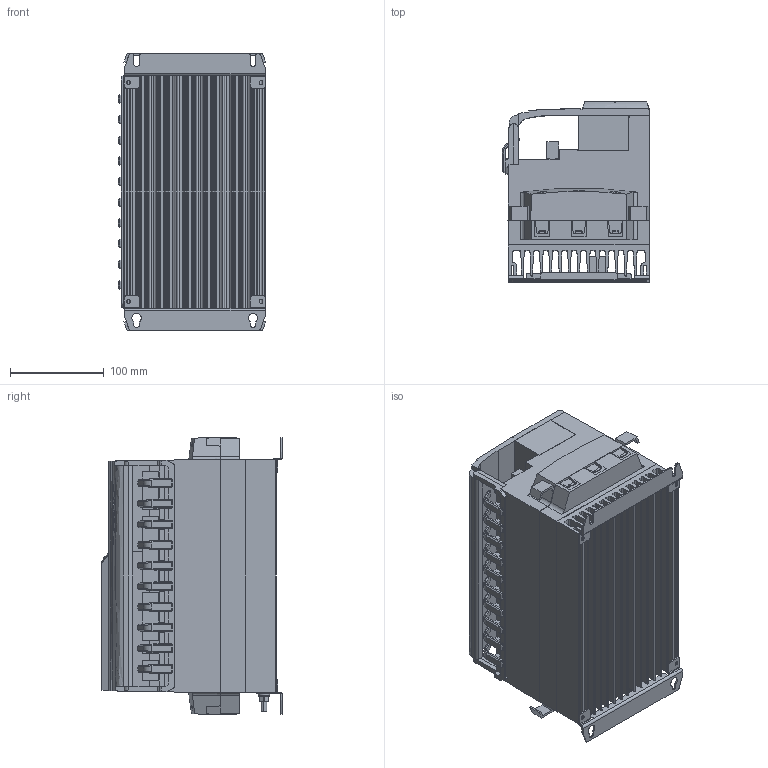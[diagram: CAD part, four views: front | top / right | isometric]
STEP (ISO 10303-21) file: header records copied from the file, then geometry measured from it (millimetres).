
FILE_DESCRIPTION (( 'STEP AP214' ), '1' );
FILE_NAME ('EMX3 G1 General Assembly Simplified (no fan).STEP', '2013-01-14T02:25:52', ( '' ), ( '' ), 'SwSTEP 2.0', 'SolidWorks 2012', '' );
FILE_SCHEMA (( 'AUTOMOTIVE_DESIGN' ));
Length unit declared in the file: millimetre
Products named in the file (1): EMX3 G1 General Assembly Simplified (no fan)
Bounding box: 156.79 x 192.15 x 295.4 mm (x, y, z)
Volume: 4703860.7 mm3; surface area: 840837.8 mm2
Topology: 20 solids, 20 shells, 2373 faces, 6399 edges, 4143 vertices
Faces by surface type: plane 1344, bspline 473, cylinder 392, cone 111, sphere 44, torus 9
Entity records: 118597 total; most frequent: CARTESIAN_POINT 37122, ORIENTED_EDGE 12798, DIRECTION 9229, EDGE_CURVE 6399, VERTEX_POINT 4143, VECTOR 3857, LINE 3857, AXIS2_PLACEMENT_3D 2686
